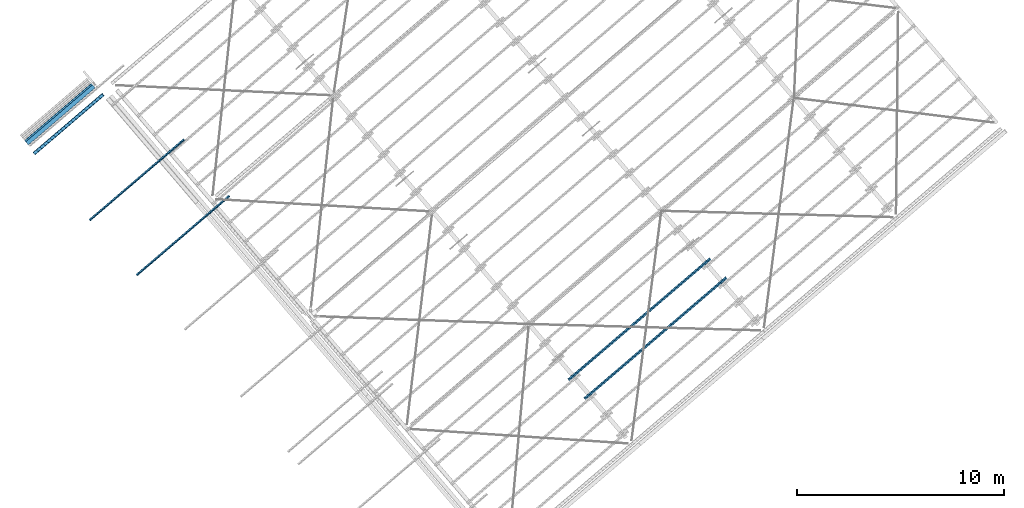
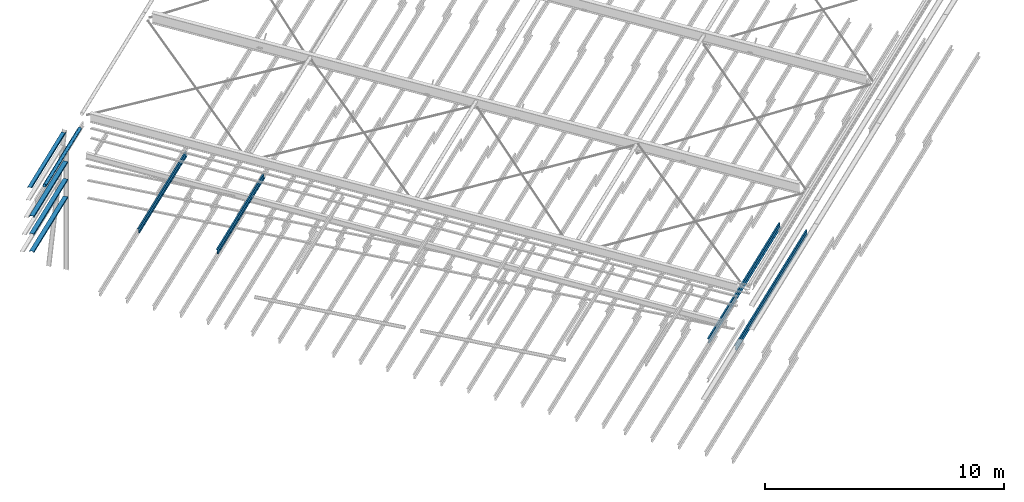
# One storey, part 6 of 25: 9 beams, 1 element without a shape of its own.
"""IFC2X3 building model written with IfcOpenShell, lengths in millimetres."""

from ifc_helpers import new_model, entity, si_unit, converted_unit, derived_unit, direction, frame, frame_2d, origin, origin_2d_with_axis, place, context, subcontext, project, spatial, polyline, circle_curve, parameter, trimmed, segment, composite_curve, hollow_circle, outline, extrude, material, type_object, element, aggregate, save


model = new_model("IFC2X3")

# Units and contexts
model_context = context("Model", 3, precision=0.01, world=origin(), true_north=direction((6.123031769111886e-17, 1.0)))
body_context = subcontext(model_context, "Body", "Model", "MODEL_VIEW")
ifc_project = project(units=[si_unit("LENGTHUNIT", "METRE", prefix="MILLI"), si_unit("AREAUNIT", "SQUARE_METRE"), si_unit("VOLUMEUNIT", "CUBIC_METRE"), converted_unit("PLANEANGLEUNIT", "DEGREE", entity("IfcRatioMeasure", 0.017453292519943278), si_unit("PLANEANGLEUNIT", "RADIAN"), dimensions=[0, 0, 0, 0, 0, 0, 0]), si_unit("MASSUNIT", "GRAM", prefix="KILO"), derived_unit("MASSDENSITYUNIT", [(si_unit("MASSUNIT", "GRAM", prefix="KILO"), 1), (si_unit("LENGTHUNIT", "METRE"), -3)]), derived_unit("MOMENTOFINERTIAUNIT", [(si_unit("LENGTHUNIT", "METRE"), 4)]), si_unit("TIMEUNIT", "SECOND"), si_unit("FREQUENCYUNIT", "HERTZ"), si_unit("THERMODYNAMICTEMPERATUREUNIT", "DEGREE_CELSIUS"), derived_unit("THERMALTRANSMITTANCEUNIT", [(si_unit("MASSUNIT", "GRAM", prefix="KILO"), 1), (si_unit("THERMODYNAMICTEMPERATUREUNIT", "KELVIN"), -1), (si_unit("TIMEUNIT", "SECOND"), -3)]), derived_unit("VOLUMETRICFLOWRATEUNIT", [(si_unit("LENGTHUNIT", "METRE"), 3), (si_unit("TIMEUNIT", "SECOND"), -1)]), derived_unit("MASSFLOWRATEUNIT", [(si_unit("MASSUNIT", "GRAM", prefix="KILO"), 1), (si_unit("TIMEUNIT", "SECOND"), -1)]), derived_unit("ROTATIONALFREQUENCYUNIT", [(si_unit("TIMEUNIT", "SECOND"), -1)]), si_unit("ELECTRICCURRENTUNIT", "AMPERE"), si_unit("ELECTRICVOLTAGEUNIT", "VOLT"), si_unit("POWERUNIT", "WATT"), si_unit("FORCEUNIT", "NEWTON", prefix="KILO"), si_unit("ILLUMINANCEUNIT", "LUX"), si_unit("LUMINOUSFLUXUNIT", "LUMEN"), si_unit("LUMINOUSINTENSITYUNIT", "CANDELA"), derived_unit("USERDEFINED", [(si_unit("MASSUNIT", "GRAM", prefix="KILO"), -1), (si_unit("LENGTHUNIT", "METRE"), -2), (si_unit("TIMEUNIT", "SECOND"), 3), (si_unit("LUMINOUSFLUXUNIT", "LUMEN"), 1)]), derived_unit("SOUNDPOWERUNIT", [(si_unit("MASSUNIT", "GRAM", prefix="KILO"), 1), (si_unit("LENGTHUNIT", "METRE"), 2), (si_unit("TIMEUNIT", "SECOND"), -3)]), derived_unit("LINEARVELOCITYUNIT", [(si_unit("LENGTHUNIT", "METRE"), 1), (si_unit("TIMEUNIT", "SECOND"), -1)]), si_unit("PRESSUREUNIT", "PASCAL"), derived_unit("USERDEFINED", [(si_unit("LENGTHUNIT", "METRE"), -2), (si_unit("MASSUNIT", "GRAM", prefix="KILO"), 1), (si_unit("TIMEUNIT", "SECOND"), -2)]), derived_unit("LINEARFORCEUNIT", [(si_unit("MASSUNIT", "GRAM", prefix="KILO"), 1), (si_unit("LENGTHUNIT", "METRE"), 1), (si_unit("TIMEUNIT", "SECOND"), -2), (si_unit("LENGTHUNIT", "METRE"), -1)]), derived_unit("PLANARFORCEUNIT", [(si_unit("MASSUNIT", "GRAM", prefix="KILO"), 1), (si_unit("LENGTHUNIT", "METRE"), 1), (si_unit("TIMEUNIT", "SECOND"), -2), (si_unit("LENGTHUNIT", "METRE"), -2)])], contexts=[model_context])

# Site, building, storey
site_placement = place(None, frame((962.4174930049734, -6014.433753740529, 0.0), z_axis=(0.0, 0.0, 1.0), x_axis=(0.7601792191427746, 0.649713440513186, 0.0)))
site = spatial("IfcSite", under=ifc_project, at=site_placement, Name="Default", CompositionType="ELEMENT")
building_placement = place(site_placement, origin())
building = spatial("IfcBuilding", under=site, at=building_placement, CompositionType="ELEMENT")
storey_placement = place(building_placement, frame((0.0, 0.0, 9200.0)))
storey = spatial("IfcBuildingStorey", under=building, at=storey_placement, Name="TOP OF CEILING", CompositionType="ELEMENT", Elevation=9200.000000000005)

# Beams
ifc_material_1 = material(Name="Metal - Steel - 300 MPa")
beam_type_1 = type_object("IfcBeamType", Name="ADSK_AU_CHS-Circular Hollow Sections (AS 1163_C350):168.3x6.4CHS", PredefinedType="NOTDEFINED")
beam_1_placement = place(storey_placement, frame((149538.96020471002, 3384.0219178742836, 3800.0)))
element("IfcBeam", 1, at=beam_1_placement, inside=storey, type_object=beam_type_1, material=ifc_material_1, Name="ADSK_AU_CHS-Circular Hollow Sections (AS 1163_C350):168.3x6.4CHS", ObjectType="ADSK_AU_CHS-Circular Hollow Sections (AS 1163_C350):168.3x6.4CHS", context=body_context, shape_type="SweptSolid", body=[
    extrude(hollow_circle(Radius=84.15000000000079, WallThickness=6.4000000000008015, at=origin_2d_with_axis()), frame((0.0, 0.0, -84.1500000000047), z_axis=(1.0, 0.0, 0.0), x_axis=(0.0, 1.0, 0.0)), (0.0, 0.0, 1.0), 4400.000000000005),
])
beam_type_2 = type_object("IfcBeamType", Name="ADSK_UK_Light Gauge-Zeds-Purlin:Metsec-202Z14", PredefinedType="NOTDEFINED")
beam_2_placement = place(storey_placement, frame((155490.82110097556, -807.4280821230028, 2505.418927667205), z_axis=(0.0, 0.0, 1.0), x_axis=(-1.0, 0.0, 0.0)))
element("IfcBeam", 2, at=beam_2_placement, inside=storey, type_object=beam_type_2, material=ifc_material_1, Name="ADSK_UK_Light Gauge-Zeds-Purlin:Metsec-202Z14", ObjectType="ADSK_UK_Light Gauge-Zeds-Purlin:Metsec-202Z14", context=body_context, shape_type="SweptSolid", body=[
    extrude(outline(composite_curve([segment(trimmed(circle_curve(frame_2d((98.40000000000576, 58.0), x_axis=(1.0, 0.0)), 2.800000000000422), [parameter(0.0)], [parameter(89.99999999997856)], True, "PARAMETER"), True, "CONTINUOUS"), segment(polyline([(98.4000000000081, 60.799999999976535), (80.20000000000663, 60.79999999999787)]), True, "CONTINUOUS"), segment(polyline([(80.20000000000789, 60.799999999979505), (80.20000000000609, 59.39999999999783)]), True, "CONTINUOUS"), segment(polyline([(80.20000000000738, 59.399999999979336), (98.40000000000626, 59.399999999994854)]), True, "CONTINUOUS"), segment(trimmed(circle_curve(frame_2d((98.40000000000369, 58.0), x_axis=(0.0, 1.0)), 1.4000000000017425), [parameter(270.0000000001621)], [parameter(0.0)], True, "PARAMETER"), False, "CONTINUOUS"), segment(polyline([(99.80000000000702, 58.0), (99.79999999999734, 3.599999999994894)]), True, "CONTINUOUS"), segment(trimmed(circle_curve(frame_2d((98.3999999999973, 3.59999999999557), x_axis=(1.0, 0.0)), 1.400000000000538), [parameter(270.0000000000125)], [parameter(0.0)], True, "PARAMETER"), False, "CONTINUOUS"), segment(polyline([(98.39999999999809, 2.1999999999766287), (-98.0, 2.200000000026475)]), True, "CONTINUOUS"), segment(trimmed(circle_curve(frame_2d((-98.0, -0.5999999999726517), x_axis=(0.0, 1.0)), 2.799999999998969), [parameter(0.0)], [parameter(90.00000000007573)], True, "PARAMETER"), True, "CONTINUOUS"), segment(polyline([(-100.79999999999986, -0.5999999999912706), (-100.80000000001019, -60.0)]), True, "CONTINUOUS"), segment(trimmed(circle_curve(frame_2d((-98.0, -60.0), x_axis=(-1.0, 0.0)), 2.800000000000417), [parameter(0.0)], [parameter(89.99999999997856)], True, "PARAMETER"), True, "CONTINUOUS"), segment(polyline([(-98.0, -62.79999999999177), (-81.80000000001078, -62.79999999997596)]), True, "CONTINUOUS"), segment(polyline([(-81.8000000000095, -62.799999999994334), (-81.80000000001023, -61.39999999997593)]), True, "CONTINUOUS"), segment(polyline([(-81.80000000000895, -61.3999999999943), (-98.0, -61.39999999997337)]), True, "CONTINUOUS"), segment(trimmed(circle_curve(frame_2d((-98.0, -60.0), x_axis=(0.0, -1.0)), 1.4000000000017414), [parameter(270.0000000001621)], [parameter(0.0)], True, "PARAMETER"), False, "CONTINUOUS"), segment(polyline([(-99.40000000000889, -60.0), (-99.4000000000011, -0.5999999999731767)]), True, "CONTINUOUS"), segment(trimmed(circle_curve(frame_2d((-98.0, -0.5999999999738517), x_axis=(-1.0, 0.0)), 1.4000000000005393), [parameter(270.0000000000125)], [parameter(0.0)], True, "PARAMETER"), False, "CONTINUOUS"), segment(polyline([(-98.0, 0.8000000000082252), (98.3999999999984, 0.799999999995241)]), True, "CONTINUOUS"), segment(trimmed(circle_curve(frame_2d((98.39999999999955, 3.5999999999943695), x_axis=(0.0, -1.0)), 2.7999999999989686), [parameter(0.0)], [parameter(90.00000000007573)], True, "PARAMETER"), True, "CONTINUOUS"), segment(polyline([(101.19999999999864, 3.5999999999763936), (101.20000000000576, 58.0)]), True, "CONTINUOUS")], self_intersect=False)), frame((0.0, -7.694663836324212, -100.50831880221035), z_axis=(1.0, 0.0, 0.0), x_axis=(0.0, -0.06940825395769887, -0.9975883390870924)), (0.0, 0.0, 1.0), 6000.000000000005),
])
beam_3_placement = place(storey_placement, frame((155390.82110097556, -4292.428082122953, 2252.801172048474), z_axis=(0.0, 0.0, 1.0), x_axis=(-1.0, 0.0, 0.0)))
element("IfcBeam", 3, at=beam_3_placement, inside=storey, type_object=beam_type_2, material=ifc_material_1, Name="ADSK_UK_Light Gauge-Zeds-Purlin:Metsec-202Z14", ObjectType="ADSK_UK_Light Gauge-Zeds-Purlin:Metsec-202Z14", context=body_context, shape_type="SweptSolid", body=[
    extrude(outline(composite_curve([segment(trimmed(circle_curve(frame_2d((58.0, 98.39999999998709), x_axis=(1.0, 0.0)), 2.8000000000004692), [parameter(0.0)], [parameter(89.99999999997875)], True, "PARAMETER"), True, "CONTINUOUS"), segment(polyline([(58.0, 101.19999999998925), (3.600000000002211, 101.20000000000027)]), True, "CONTINUOUS"), segment(trimmed(circle_curve(frame_2d((3.600000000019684, 98.40000000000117), x_axis=(0.0, 1.0)), 2.799999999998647), [parameter(0.0)], [parameter(90.00000000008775)], True, "PARAMETER"), True, "CONTINUOUS"), segment(polyline([(0.80000000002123, 98.40000000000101), (0.7999999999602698, -98.0)]), True, "CONTINUOUS"), segment(trimmed(circle_curve(frame_2d((-0.600000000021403, -98.0), x_axis=(1.0, 0.0)), 1.40000000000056), [parameter(270.0000000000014)], [parameter(0.0)], True, "PARAMETER"), False, "CONTINUOUS"), segment(polyline([(-0.6000000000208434, -99.39999999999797), (-60.0, -99.39999999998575)]), True, "CONTINUOUS"), segment(trimmed(circle_curve(frame_2d((-60.0, -98.0), x_axis=(0.0, -1.0)), 1.4000000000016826), [parameter(270.00000000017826)], [parameter(0.0)], True, "PARAMETER"), False, "CONTINUOUS"), segment(polyline([(-61.40000000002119, -98.0), (-61.40000000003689, -81.79999999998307)]), True, "CONTINUOUS"), segment(polyline([(-61.40000000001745, -81.79999999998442), (-62.80000000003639, -81.79999999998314)]), True, "CONTINUOUS"), segment(polyline([(-62.80000000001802, -81.79999999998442), (-62.80000000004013, -98.0)]), True, "CONTINUOUS"), segment(trimmed(circle_curve(frame_2d((-60.0, -98.0), x_axis=(-1.0, 0.0)), 2.800000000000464), [parameter(0.0)], [parameter(89.99999999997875)], True, "PARAMETER"), True, "CONTINUOUS"), segment(polyline([(-60.0, -100.79999999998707), (-0.6000000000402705, -100.79999999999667)]), True, "CONTINUOUS"), segment(trimmed(circle_curve(frame_2d((-0.6000000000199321, -98.0), x_axis=(0.0, -1.0)), 2.7999999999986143), [parameter(0.0)], [parameter(90.00000000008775)], True, "PARAMETER"), True, "CONTINUOUS"), segment(polyline([(2.1999999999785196, -98.0), (2.2000000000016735, 98.40000000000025)]), True, "CONTINUOUS"), segment(trimmed(circle_curve(frame_2d((3.6000000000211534, 98.3999999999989), x_axis=(-1.0, 0.0)), 1.4000000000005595), [parameter(270.0000000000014)], [parameter(0.0)], True, "PARAMETER"), False, "CONTINUOUS"), segment(polyline([(3.6000000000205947, 99.79999999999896), (58.0, 99.79999999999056)]), True, "CONTINUOUS"), segment(trimmed(circle_curve(frame_2d((58.0, 98.39999999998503), x_axis=(0.0, 1.0)), 1.4000000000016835), [parameter(270.00000000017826)], [parameter(0.0)], True, "PARAMETER"), False, "CONTINUOUS"), segment(polyline([(59.40000000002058, 98.39999999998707), (59.39999999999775, 80.19999999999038)]), True, "CONTINUOUS"), segment(polyline([(59.400000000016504, 80.19999999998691), (60.79999999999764, 80.19999999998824)]), True, "CONTINUOUS"), segment(polyline([(60.800000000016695, 80.19999999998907), (60.80000000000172, 98.39999999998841)]), True, "CONTINUOUS")], self_intersect=False)), frame((0.0, -7.6946638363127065, -100.5083188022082), z_axis=(-1.0, 0.0, 0.0), x_axis=(0.0, 0.9975883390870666, -0.06940825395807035)), (0.0, 0.0, -1.0), 5900.00000000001),
])
beam_4_placement = place(storey_placement, frame((153845.96020471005, 4159.072888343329, 3432.2927604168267), z_axis=(0.0, 0.0, 1.0), x_axis=(-1.0, 0.0, 0.0)))
element("IfcBeam", 4, at=beam_4_placement, inside=storey, type_object=beam_type_2, material=ifc_material_1, Name="ADSK_UK_Light Gauge-Zeds-Purlin:Metsec-202Z14", ObjectType="ADSK_UK_Light Gauge-Zeds-Purlin:Metsec-202Z14", context=body_context, shape_type="SweptSolid", body=[
    extrude(outline(composite_curve([segment(trimmed(circle_curve(frame_2d((98.40000000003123, 58.0), x_axis=(1.0, 0.0)), 2.8000000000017), [parameter(0.0)], [parameter(89.99999999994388)], True, "PARAMETER"), True, "CONTINUOUS"), segment(polyline([(98.40000000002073, 60.79999999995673), (80.20000000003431, 60.799999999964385)]), True, "CONTINUOUS"), segment(polyline([(80.20000000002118, 60.799999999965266), (80.20000000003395, 59.39999999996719)]), True, "CONTINUOUS"), segment(polyline([(80.20000000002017, 59.39999999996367), (98.40000000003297, 59.399999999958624)]), True, "CONTINUOUS"), segment(trimmed(circle_curve(frame_2d((98.40000000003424, 58.0), x_axis=(0.0, 1.0)), 1.3999999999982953), [parameter(269.9999999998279)], [parameter(0.0)], True, "PARAMETER"), False, "CONTINUOUS"), segment(polyline([(99.80000000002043, 58.0), (99.80000000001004, 3.5999999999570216)]), True, "CONTINUOUS"), segment(trimmed(circle_curve(frame_2d((98.40000000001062, 3.599999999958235), x_axis=(1.0, 0.0)), 1.399999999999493), [parameter(269.9999999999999)], [parameter(0.0)], True, "PARAMETER"), False, "CONTINUOUS"), segment(polyline([(98.39999999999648, 2.1999999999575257), (-98.0, 2.200000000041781)]), True, "CONTINUOUS"), segment(trimmed(circle_curve(frame_2d((-98.0, -0.5999999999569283), x_axis=(0.0, 1.0)), 2.800000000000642), [parameter(0.0)], [parameter(90.00000000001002)], True, "PARAMETER"), True, "CONTINUOUS"), segment(polyline([(-100.80000000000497, -0.5999999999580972), (-100.80000000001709, -60.0)]), True, "CONTINUOUS"), segment(trimmed(circle_curve(frame_2d((-98.0, -60.0), x_axis=(-1.0, 0.0)), 2.8000000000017), [parameter(0.0)], [parameter(89.99999999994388)], True, "PARAMETER"), True, "CONTINUOUS"), segment(polyline([(-98.0, -62.799999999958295), (-81.80000000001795, -62.79999999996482)]), True, "CONTINUOUS"), segment(polyline([(-81.80000000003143, -62.79999999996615), (-81.80000000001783, -61.3999999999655)]), True, "CONTINUOUS"), segment(polyline([(-81.80000000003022, -61.399999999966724), (-98.0, -61.39999999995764)]), True, "CONTINUOUS"), segment(trimmed(circle_curve(frame_2d((-98.0, -60.0), x_axis=(0.0, -1.0)), 1.3999999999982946), [parameter(269.9999999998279)], [parameter(0.0)], True, "PARAMETER"), False, "CONTINUOUS"), segment(polyline([(-99.40000000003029, -60.0), (-99.39999999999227, -0.5999999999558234)]), True, "CONTINUOUS"), segment(trimmed(circle_curve(frame_2d((-98.0, -0.5999999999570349), x_axis=(-1.0, 0.0)), 1.3999999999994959), [parameter(269.9999999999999)], [parameter(0.0)], True, "PARAMETER"), False, "CONTINUOUS"), segment(polyline([(-98.0, 0.8000000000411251), (98.40000000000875, 0.7999999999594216)]), True, "CONTINUOUS"), segment(trimmed(circle_curve(frame_2d((98.40000000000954, 3.5999999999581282), x_axis=(0.0, -1.0)), 2.8000000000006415), [parameter(0.0)], [parameter(90.00000000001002)], True, "PARAMETER"), True, "CONTINUOUS"), segment(polyline([(101.19999999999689, 3.599999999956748), (101.20000000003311, 58.0)]), True, "CONTINUOUS")], self_intersect=False)), frame((0.0, 100.24508507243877, -10.585505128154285), z_axis=(1.0, 0.0, 0.0), x_axis=(0.0, 0.9951761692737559, -0.09810398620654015)), (0.0, 0.0, 1.0), 4240.000000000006),
])
beam_type_3 = type_object("IfcBeamType", Name="ADSK_AU_PFC-Parallel Flange Channels (AS 3679_1):200PFC", PredefinedType="NOTDEFINED")
beam_5_placement = place(storey_placement, frame((153845.96020471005, 4077.2318669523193, 163.2424196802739), z_axis=(0.0, 0.0, 1.0), x_axis=(-1.0, 0.0, 0.0)))
element("IfcBeam", 5, at=beam_5_placement, inside=storey, type_object=beam_type_3, material=ifc_material_1, Name="ADSK_AU_PFC-Parallel Flange Channels (AS 3679_1):200PFC", ObjectType="ADSK_AU_PFC-Parallel Flange Channels (AS 3679_1):200PFC", context=body_context, shape_type="SweptSolid", body=[
    extrude(outline(composite_curve([segment(polyline([(-34.80000000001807, -100.0), (40.1999999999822, -100.0)]), True, "CONTINUOUS"), segment(polyline([(40.199999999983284, -100.0), (40.19999999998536, -88.0)]), True, "CONTINUOUS"), segment(polyline([(40.19999999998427, -88.0), (-16.80000000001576, -88.0)]), True, "CONTINUOUS"), segment(trimmed(circle_curve(frame_2d((-16.800000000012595, -76.0), x_axis=(0.0, -1.0)), 12.000000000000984), [parameter(270.00000000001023)], [parameter(0.0)], True, "PARAMETER"), False, "CONTINUOUS"), segment(polyline([(-28.8000000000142, -76.0), (-28.799999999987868, 76.0)]), True, "CONTINUOUS"), segment(trimmed(circle_curve(frame_2d((-16.799999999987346, 76.0), x_axis=(-1.0, 0.0)), 12.000000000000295), [parameter(269.9999999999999)], [parameter(0.0)], True, "PARAMETER"), False, "CONTINUOUS"), segment(polyline([(-16.799999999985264, 88.0), (40.20000000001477, 88.0)]), True, "CONTINUOUS"), segment(polyline([(40.200000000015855, 88.0), (40.20000000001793, 100.0)]), True, "CONTINUOUS"), segment(polyline([(40.20000000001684, 100.0), (-34.79999999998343, 100.0)]), True, "CONTINUOUS"), segment(polyline([(-34.79999999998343, 100.0), (-34.80000000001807, -100.0)]), True, "CONTINUOUS")], self_intersect=False)), frame((0.0, 100.0, -10.400000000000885), z_axis=(1.0, 0.0, 0.0), x_axis=(0.0, 0.0, -1.0)), (0.0, 0.0, 1.0), 4240.000000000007),
])
beam_6_placement = place(storey_placement, frame((153845.96020471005, 4077.2318669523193, 1063.242419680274), z_axis=(0.0, 0.0, 1.0), x_axis=(-1.0, 0.0, 0.0)))
element("IfcBeam", 6, at=beam_6_placement, inside=storey, type_object=beam_type_3, material=ifc_material_1, Name="ADSK_AU_PFC-Parallel Flange Channels (AS 3679_1):200PFC", ObjectType="ADSK_AU_PFC-Parallel Flange Channels (AS 3679_1):200PFC", context=body_context, shape_type="SweptSolid", body=[
    extrude(outline(composite_curve([segment(polyline([(-34.800000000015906, -100.0), (40.19999999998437, -100.0)]), True, "CONTINUOUS"), segment(polyline([(40.19999999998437, -100.0), (40.199999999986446, -88.0)]), True, "CONTINUOUS"), segment(polyline([(40.199999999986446, -88.0), (-16.800000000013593, -88.0)]), True, "CONTINUOUS"), segment(trimmed(circle_curve(frame_2d((-16.80000000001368, -76.0), x_axis=(0.0, -1.0)), 11.99999999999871), [parameter(269.9999999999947)], [parameter(0.0)], True, "PARAMETER"), False, "CONTINUOUS"), segment(polyline([(-28.800000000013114, -76.0), (-28.79999999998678, 76.0)]), True, "CONTINUOUS"), segment(trimmed(circle_curve(frame_2d((-16.799999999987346, 76.0), x_axis=(-1.0, 0.0)), 11.999999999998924), [parameter(269.9999999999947)], [parameter(0.0)], True, "PARAMETER"), False, "CONTINUOUS"), segment(polyline([(-16.799999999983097, 88.0), (40.20000000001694, 88.0)]), True, "CONTINUOUS"), segment(polyline([(40.20000000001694, 88.0), (40.20000000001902, 100.0)]), True, "CONTINUOUS"), segment(polyline([(40.20000000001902, 100.0), (-34.79999999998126, 100.0)]), True, "CONTINUOUS"), segment(polyline([(-34.79999999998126, 100.0), (-34.800000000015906, -100.0)]), True, "CONTINUOUS")], self_intersect=False)), frame((0.0, 100.0, -10.399999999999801), z_axis=(1.0, 0.0, 0.0), x_axis=(0.0, 0.0, -1.0)), (0.0, 0.0, 1.0), 4240.000000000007),
])
beam_7_placement = place(storey_placement, frame((153845.96020471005, 4077.2318669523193, 1963.2424196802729), z_axis=(0.0, 0.0, 1.0), x_axis=(-1.0, 0.0, 0.0)))
element("IfcBeam", 7, at=beam_7_placement, inside=storey, type_object=beam_type_3, material=ifc_material_1, Name="ADSK_AU_PFC-Parallel Flange Channels (AS 3679_1):200PFC", ObjectType="ADSK_AU_PFC-Parallel Flange Channels (AS 3679_1):200PFC", context=body_context, shape_type="SweptSolid", body=[
    extrude(outline(composite_curve([segment(polyline([(-34.80000000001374, -100.0), (40.19999999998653, -100.0)]), True, "CONTINUOUS"), segment(polyline([(40.19999999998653, -100.0), (40.199999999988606, -88.0)]), True, "CONTINUOUS"), segment(polyline([(40.199999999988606, -88.0), (-16.80000000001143, -88.0)]), True, "CONTINUOUS"), segment(trimmed(circle_curve(frame_2d((-16.800000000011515, -76.0), x_axis=(0.0, -1.0)), 11.99999999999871), [parameter(269.9999999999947)], [parameter(0.0)], True, "PARAMETER"), False, "CONTINUOUS"), segment(polyline([(-28.80000000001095, -76.0), (-28.799999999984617, 76.0)]), True, "CONTINUOUS"), segment(trimmed(circle_curve(frame_2d((-16.799999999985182, 76.0), x_axis=(-1.0, 0.0)), 11.999999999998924), [parameter(269.9999999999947)], [parameter(0.0)], True, "PARAMETER"), False, "CONTINUOUS"), segment(polyline([(-16.799999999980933, 88.0), (40.2000000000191, 88.0)]), True, "CONTINUOUS"), segment(polyline([(40.2000000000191, 88.0), (40.20000000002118, 100.0)]), True, "CONTINUOUS"), segment(polyline([(40.20000000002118, 100.0), (-34.79999999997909, 100.0)]), True, "CONTINUOUS"), segment(polyline([(-34.79999999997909, 100.0), (-34.80000000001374, -100.0)]), True, "CONTINUOUS")], self_intersect=False)), frame((0.0, 100.0, -10.399999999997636), z_axis=(1.0, 0.0, 0.0), x_axis=(0.0, 0.0, -1.0)), (0.0, 0.0, 1.0), 4240.000000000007),
])

# Assembly, beams
assembly_placement = place(storey_placement, origin())
assembly = element("IfcElementAssembly", 8, at=assembly_placement, inside=storey, Name="Structural Beam System:Structural Beam System 1", ObjectType="Structural Beam System:Structural Beam System 1", AssemblyPlace="NOTDEFINED", PredefinedType="BEAM_GRID")
ifc_material_2 = material(Name="Metal - Light Gauge")
beam_type_4 = type_object("IfcBeamType", Name="ADSK_AU_Light Gauge-Zeds:Z20024", PredefinedType="NOTDEFINED")
beam_8_placement = place(building_placement, frame((171038.56020470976, -21645.862884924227, 2676.3822058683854), z_axis=(0.0, 0.0, 1.0), x_axis=(-1.0, 0.0, 0.0)))
beam_8 = element("IfcBeam", 9, at=beam_8_placement, type_object=beam_type_4, material=ifc_material_2, Name="ADSK_AU_Light Gauge-Zeds:Z20024", ObjectType="ADSK_AU_Light Gauge-Zeds:Z20024", context=body_context, shape_type="SweptSolid", body=[
    extrude(outline(composite_curve([segment(polyline([(99.10000000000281, 1.0300000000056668), (99.10000000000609, -71.66999999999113)]), True, "CONTINUOUS"), segment(trimmed(circle_curve(frame_2d((97.10000000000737, -71.66999999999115), x_axis=(0.0, -1.0)), 1.9999999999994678), [parameter(0.0)], [parameter(90.00000000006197)], True, "PARAMETER"), False, "CONTINUOUS"), segment(polyline([(97.10000000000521, -73.66999999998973), (79.5000000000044, -73.66999999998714)]), True, "CONTINUOUS"), segment(polyline([(79.5000000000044, -73.66999999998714), (79.50000000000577, -76.06999999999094)]), True, "CONTINUOUS"), segment(polyline([(79.50000000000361, -76.06999999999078), (97.10000000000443, -76.06999999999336)]), True, "CONTINUOUS"), segment(trimmed(circle_curve(frame_2d((97.10000000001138, -71.66999999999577), x_axis=(1.0, 0.0)), 4.39999999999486), [parameter(269.9999999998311)], [parameter(0.0)], True, "PARAMETER"), True, "CONTINUOUS"), segment(polyline([(101.50000000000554, -71.66999999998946), (101.50000000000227, 1.030000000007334)]), True, "CONTINUOUS"), segment(trimmed(circle_curve(frame_2d((97.10000000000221, 1.030000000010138), x_axis=(0.0, 1.0)), 4.399999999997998), [parameter(269.9999999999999)], [parameter(0.0)], True, "PARAMETER"), True, "CONTINUOUS"), segment(polyline([(97.10000000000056, 5.430000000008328), (-97.09999999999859, 5.430000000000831)]), True, "CONTINUOUS"), segment(trimmed(circle_curve(frame_2d((-97.10000000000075, 7.429999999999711), x_axis=(-1.0, 0.0)), 1.9999999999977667), [parameter(0.0)], [parameter(90.00000000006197)], True, "PARAMETER"), False, "CONTINUOUS"), segment(polyline([(-99.09999999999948, 7.429999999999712), (-99.10000000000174, 66.02999999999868)]), True, "CONTINUOUS"), segment(trimmed(circle_curve(frame_2d((-97.10000000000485, 66.03000000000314), x_axis=(0.0, 1.0)), 1.9999999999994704), [parameter(0.0)], [parameter(90.00000000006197)], True, "PARAMETER"), False, "CONTINUOUS"), segment(polyline([(-97.1000000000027, 68.03000000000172), (-79.50000000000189, 68.02999999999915)]), True, "CONTINUOUS"), segment(polyline([(-79.50000000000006, 68.02999999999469), (-79.50000000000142, 70.42999999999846)]), True, "CONTINUOUS"), segment(polyline([(-79.50000000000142, 70.42999999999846), (-97.10000000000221, 70.43000000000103)]), True, "CONTINUOUS"), segment(trimmed(circle_curve(frame_2d((-97.10000000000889, 66.03000000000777), x_axis=(-1.0, 0.0)), 4.3999999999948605), [parameter(269.9999999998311)], [parameter(0.0)], True, "PARAMETER"), True, "CONTINUOUS"), segment(polyline([(-101.50000000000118, 66.029999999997), (-101.49999999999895, 7.429999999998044)]), True, "CONTINUOUS"), segment(trimmed(circle_curve(frame_2d((-97.10000000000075, 7.429999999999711), x_axis=(0.0, -1.0)), 4.399999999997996), [parameter(269.9999999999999)], [parameter(0.0)], True, "PARAMETER"), True, "CONTINUOUS"), segment(polyline([(-97.0999999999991, 3.030000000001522), (97.10000000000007, 3.030000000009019)]), True, "CONTINUOUS"), segment(trimmed(circle_curve(frame_2d((97.10000000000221, 1.030000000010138), x_axis=(1.0, 0.0)), 1.9999999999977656), [parameter(0.0)], [parameter(90.00000000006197)], True, "PARAMETER"), False, "CONTINUOUS")], self_intersect=False)), frame((0.0, -1.6635092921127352, -101.63152875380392), z_axis=(-1.0, 0.0, 0.0), x_axis=(0.0, -0.06975647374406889, -0.9975640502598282)), (0.0, 0.0, -1.0), 9000.000000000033),
])
beam_9_placement = place(building_placement, frame((171038.56020470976, -22842.939745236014, 2592.6744373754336), z_axis=(0.0, 0.0, 1.0), x_axis=(-1.0, 0.0, 0.0)))
beam_9 = element("IfcBeam", 10, at=beam_9_placement, type_object=beam_type_4, material=ifc_material_2, Name="ADSK_AU_Light Gauge-Zeds:Z20024", ObjectType="ADSK_AU_Light Gauge-Zeds:Z20024", context=body_context, shape_type="SweptSolid", body=[
    extrude(outline(composite_curve([segment(polyline([(99.10000000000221, 1.029999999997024), (99.10000000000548, -71.66999999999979)]), True, "CONTINUOUS"), segment(trimmed(circle_curve(frame_2d((97.10000000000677, -71.66999999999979), x_axis=(0.0, -1.0)), 1.9999999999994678), [parameter(0.0)], [parameter(90.00000000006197)], True, "PARAMETER"), False, "CONTINUOUS"), segment(polyline([(97.10000000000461, -73.66999999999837), (79.5000000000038, -73.6699999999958)]), True, "CONTINUOUS"), segment(polyline([(79.5000000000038, -73.6699999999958), (79.50000000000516, -76.06999999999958)]), True, "CONTINUOUS"), segment(polyline([(79.500000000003, -76.06999999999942), (97.10000000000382, -76.07000000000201)]), True, "CONTINUOUS"), segment(trimmed(circle_curve(frame_2d((97.10000000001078, -71.6700000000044), x_axis=(1.0, 0.0)), 4.39999999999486), [parameter(269.9999999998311)], [parameter(0.0)], True, "PARAMETER"), True, "CONTINUOUS"), segment(polyline([(101.50000000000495, -71.66999999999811), (101.50000000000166, 1.029999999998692)]), True, "CONTINUOUS"), segment(trimmed(circle_curve(frame_2d((97.10000000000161, 1.030000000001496), x_axis=(0.0, 1.0)), 4.399999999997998), [parameter(269.9999999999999)], [parameter(0.0)], True, "PARAMETER"), True, "CONTINUOUS"), segment(polyline([(97.09999999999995, 5.429999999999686), (-97.0999999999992, 5.429999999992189)]), True, "CONTINUOUS"), segment(trimmed(circle_curve(frame_2d((-97.10000000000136, 7.429999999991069), x_axis=(-1.0, 0.0)), 1.9999999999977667), [parameter(0.0)], [parameter(90.00000000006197)], True, "PARAMETER"), False, "CONTINUOUS"), segment(polyline([(-99.10000000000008, 7.42999999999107), (-99.10000000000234, 66.02999999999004)]), True, "CONTINUOUS"), segment(trimmed(circle_curve(frame_2d((-97.10000000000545, 66.0299999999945), x_axis=(0.0, 1.0)), 1.9999999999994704), [parameter(0.0)], [parameter(90.00000000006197)], True, "PARAMETER"), False, "CONTINUOUS"), segment(polyline([(-97.10000000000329, 68.02999999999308), (-79.5000000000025, 68.02999999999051)]), True, "CONTINUOUS"), segment(polyline([(-79.50000000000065, 68.02999999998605), (-79.50000000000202, 70.4299999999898)]), True, "CONTINUOUS"), segment(polyline([(-79.50000000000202, 70.4299999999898), (-97.10000000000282, 70.42999999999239)]), True, "CONTINUOUS"), segment(trimmed(circle_curve(frame_2d((-97.10000000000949, 66.02999999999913), x_axis=(-1.0, 0.0)), 4.3999999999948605), [parameter(269.9999999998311)], [parameter(0.0)], True, "PARAMETER"), True, "CONTINUOUS"), segment(polyline([(-101.50000000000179, 66.02999999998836), (-101.49999999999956, 7.429999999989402)]), True, "CONTINUOUS"), segment(trimmed(circle_curve(frame_2d((-97.10000000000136, 7.429999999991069), x_axis=(0.0, -1.0)), 4.399999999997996), [parameter(269.9999999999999)], [parameter(0.0)], True, "PARAMETER"), True, "CONTINUOUS"), segment(polyline([(-97.0999999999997, 3.02999999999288), (97.09999999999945, 3.030000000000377)]), True, "CONTINUOUS"), segment(trimmed(circle_curve(frame_2d((97.10000000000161, 1.030000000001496), x_axis=(1.0, 0.0)), 1.9999999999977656), [parameter(0.0)], [parameter(90.00000000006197)], True, "PARAMETER"), False, "CONTINUOUS")], self_intersect=False)), frame((0.0, -1.6635092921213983, -101.63152875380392), z_axis=(-1.0, 0.0, 0.0), x_axis=(0.0, -0.06975647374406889, -0.9975640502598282)), (0.0, 0.0, -1.0), 9000.000000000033),
])
aggregate(assembly, [beam_8, beam_9])

save(model, "model.ifc")
